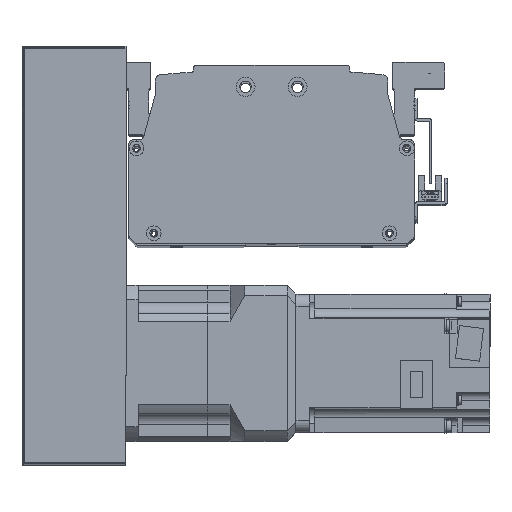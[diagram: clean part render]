
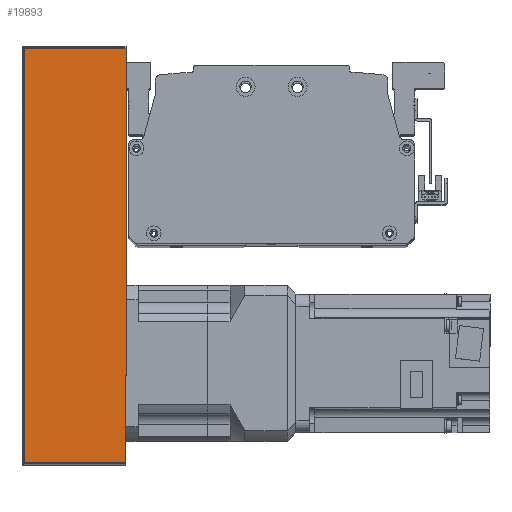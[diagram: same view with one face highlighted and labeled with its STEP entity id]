
A CAD part, top view. The second image highlights one B-rep face of the part: STEP entity #19893.
In plain terms, the highlighted planar face has unit normal (0, 0, 1) as drawn and (0, 1, 0) by its records, which use the part's own axes.
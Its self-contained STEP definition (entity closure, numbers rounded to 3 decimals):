
#583=PLANE('',#21683);
#1711=LINE('',#31925,#3371);
#1733=LINE('',#32018,#3393);
#1735=LINE('',#32028,#3395);
#1737=LINE('',#32031,#3397);
#3371=VECTOR('',#25824,10.);
#3393=VECTOR('',#25944,10.);
#3395=VECTOR('',#25958,10.);
#3397=VECTOR('',#25962,10.);
#5352=FACE_OUTER_BOUND('',#6752,.T.);
#6752=EDGE_LOOP('',(#16138,#16139,#16140,#16141));
#9594=VERTEX_POINT('',#31922);
#9595=VERTEX_POINT('',#31924);
#9616=VERTEX_POINT('',#32012);
#9619=VERTEX_POINT('',#32024);
#11940=EDGE_CURVE('',#9594,#9595,#1711,.T.);
#11988=EDGE_CURVE('',#9616,#9594,#1733,.T.);
#11993=EDGE_CURVE('',#9595,#9619,#1735,.T.);
#11995=EDGE_CURVE('',#9619,#9616,#1737,.T.);
#16138=ORIENTED_EDGE('',*,*,#11988,.F.);
#16139=ORIENTED_EDGE('',*,*,#11995,.F.);
#16140=ORIENTED_EDGE('',*,*,#11993,.F.);
#16141=ORIENTED_EDGE('',*,*,#11940,.F.);
#19893=ADVANCED_FACE('',(#5352),#583,.T.);
#21683=AXIS2_PLACEMENT_3D('',#32037,#25970,#25971);
#25824=DIRECTION('',(-1.,0.,0.));
#25944=DIRECTION('',(0.,0.,1.));
#25958=DIRECTION('',(0.,0.,-1.));
#25962=DIRECTION('',(1.,0.,0.));
#25970=DIRECTION('center_axis',(0.,1.,0.));
#25971=DIRECTION('ref_axis',(-1.,0.,0.));
#31922=CARTESIAN_POINT('',(120.,51.,30.));
#31924=CARTESIAN_POINT('',(-120.,51.,30.));
#31925=CARTESIAN_POINT('',(-121.,51.,30.));
#32012=CARTESIAN_POINT('',(120.,51.,-29.));
#32018=CARTESIAN_POINT('',(120.,51.,0.));
#32024=CARTESIAN_POINT('',(-120.,51.,-29.));
#32028=CARTESIAN_POINT('',(-120.,51.,0.));
#32031=CARTESIAN_POINT('',(60.5,51.,-29.));
#32037=CARTESIAN_POINT('Origin',(121.,51.,0.));
